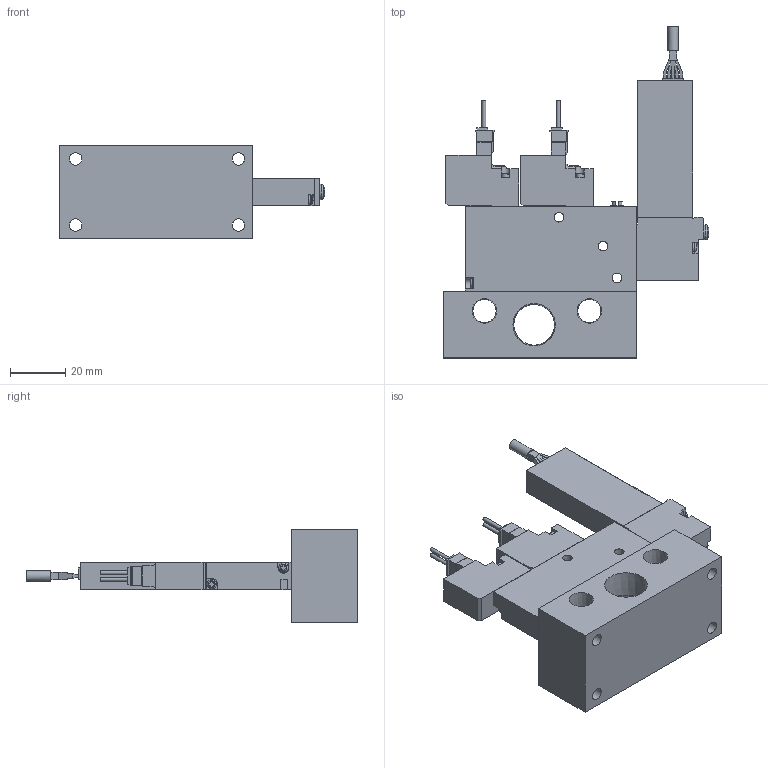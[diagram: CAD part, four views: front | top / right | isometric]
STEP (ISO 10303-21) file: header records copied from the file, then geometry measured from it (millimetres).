
FILE_DESCRIPTION(('STEP AP203'),'1');
FILE_NAME('BMPV42MV9.V9P5A(B)101.stp','2025-04-30T01:18:18',(' '),(' '),'Spatial InterOp 3D',' ',' ');
FILE_SCHEMA(('CONFIG_CONTROL_DESIGN'));
Length unit declared in the file: millimetre
Products named in the file (5): BMPV42MV9.V9P5A(B)101; VACUUM VALVE FUNCTION MPV42-A; VACUUM SENSOR MPV42-V9; UNIT-MPV42; MPV42-M10R-1
Assembly tree (5 placements, depth 2):
  BMPV42MV9.V9P5A(B)101
    VACUUM VALVE FUNCTION MPV42-A  x2
    VACUUM SENSOR MPV42-V9
    UNIT-MPV42
    MPV42-M10R-1
Bounding box: 96.35 x 120.3 x 34 mm (x, y, z)
Volume: 89067.8 mm3; surface area: 29997.8 mm2
Topology: 5 solids, 5 shells, 399 faces, 1079 edges, 714 vertices
Faces by surface type: plane 306, cylinder 73, cone 10, sphere 5, torus 5
Full cylindrical faces by diameter (mm): 1.4 x4, 1.8 x1, 2.2 x2, 3 x4, 3.5 x11, 3.8 x1, 4.134 x2, 4.5 x4, 5 x1, 5.5 x1, 8.441 x2, 14.744 x1
Entity records: 9471 total; most frequent: CARTESIAN_POINT 1852, DIRECTION 1491, ORIENTED_EDGE 1474, EDGE_CURVE 737, LINE 551, VECTOR 551, VERTEX_POINT 513, AXIS2_PLACEMENT_3D 470
